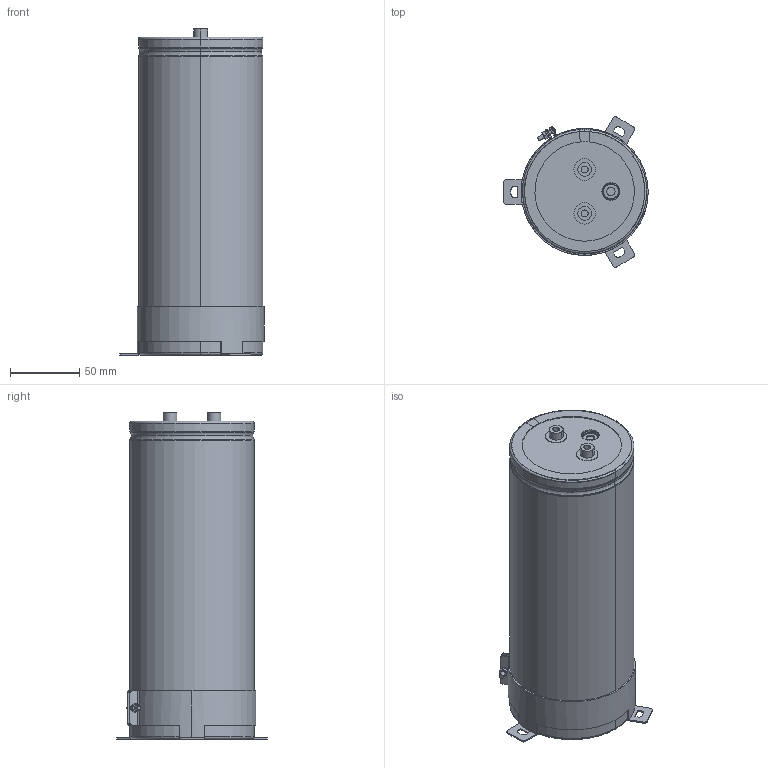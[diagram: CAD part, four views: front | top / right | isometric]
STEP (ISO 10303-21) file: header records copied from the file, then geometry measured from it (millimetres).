
FILE_DESCRIPTION(('STEP AP214'),'1');
FILE_NAME('90x230_Screw.stp','2022-03-14T08:42:17',(' '),(' '),'Spatial InterOp 3D',' ',' ');
FILE_SCHEMA(('AUTOMOTIVE_DESIGN { 1 0 10303 214 1 1 1 1 }'));
Length unit declared in the file: metre
Products named in the file (10): 90x230_Screw; Component1; Component2; Component3; Component4; Component5; Component6; Component7; Component8; Component9
Assembly tree (9 placements, depth 2):
  90x230_Screw
    Component1
    Component2
    Component3
    Component4
    Component5
    Component6
    Component7
    Component8
    Component9
Bounding box: 104.5 x 108.86 x 236 mm (x, y, z)
Volume: 1465757.1 mm3; surface area: 234154.7 mm2
Topology: 9 solids, 9 shells, 352 faces, 873 edges, 551 vertices
Faces by surface type: plane 112, cylinder 110, torus 90, cone 38, sphere 2
Entity records: 11474 total; most frequent: DIRECTION 2126, CARTESIAN_POINT 1918, ORIENTED_EDGE 1746, AXIS2_PLACEMENT_3D 919, EDGE_CURVE 873, VERTEX_POINT 551, CIRCLE 511, EDGE_LOOP 380
